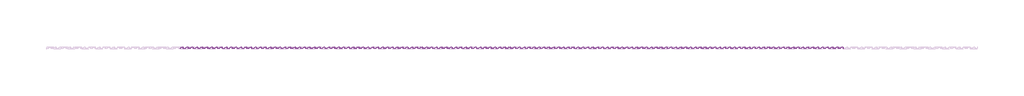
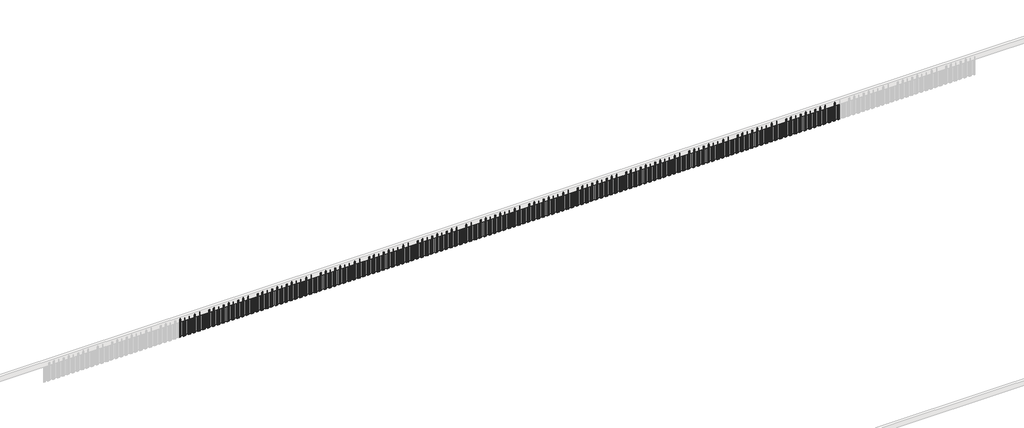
# One storey, part 5 of 6: 136 proxies.
"""IFC4 building model written with IfcOpenShell, lengths in millimetres."""

from ifc_helpers import new_model, si_unit, origin, place, context, project, spatial, transform, mapped, element, save
from components import generic_models_7553901d

model = new_model("IFC4")

# Units and contexts
model_context = context("Model", 3, world=origin())
ifc_project = project(units=[si_unit("LENGTHUNIT", "METRE", prefix="MILLI")], contexts=[model_context])

# Site, building, storey
site = spatial("IfcSite", under=ifc_project)
building = spatial("IfcBuilding", under=site)
storey = spatial("IfcBuildingStorey", under=building, Name="矢板", Elevation=0.0)

# Proxies
placement = place(None, origin())
generic_models_shape = generic_models_7553901d(model_context)
element("IfcBuildingElementProxy", 1, Name="鋼矢板10H型 : 鋼矢板10H型", ObjectType="鋼矢板10H型 : 鋼矢板10H型", at=placement, inside=storey, context=model_context, shape_type="MappedRepresentation", body=[
    mapped(generic_models_shape, transform((61897.5, 28702.0, 7600.0), x_axis=(1.0, 0.0, 0.0), y_axis=(0.0, 1.0, 0.0), z_axis=(0.0, 0.0, 1.0))),
])
element("IfcBuildingElementProxy", 2, Name="鋼矢板10H型 : 鋼矢板10H型", ObjectType="鋼矢板10H型 : 鋼矢板10H型", at=placement, inside=storey, context=model_context, shape_type="MappedRepresentation", body=[
    mapped(generic_models_shape, transform((60997.5, 28702.0, 7600.0), x_axis=(1.0, 0.0, 0.0), y_axis=(0.0, 1.0, 0.0), z_axis=(0.0, 0.0, 1.0))),
])
element("IfcBuildingElementProxy", 3, Name="鋼矢板10H型 : 鋼矢板10H型", ObjectType="鋼矢板10H型 : 鋼矢板10H型", at=placement, inside=storey, context=model_context, shape_type="MappedRepresentation", body=[
    mapped(generic_models_shape, transform((60097.5, 28702.0, 7600.0), x_axis=(1.0, 0.0, 0.0), y_axis=(0.0, 1.0, 0.0), z_axis=(0.0, 0.0, 1.0))),
])
element("IfcBuildingElementProxy", 4, Name="鋼矢板10H型 : 鋼矢板10H型", ObjectType="鋼矢板10H型 : 鋼矢板10H型", at=placement, inside=storey, context=model_context, shape_type="MappedRepresentation", body=[
    mapped(generic_models_shape, transform((59197.5, 28702.0, 7600.0), x_axis=(1.0, 0.0, 0.0), y_axis=(0.0, 1.0, 0.0), z_axis=(0.0, 0.0, 1.0))),
])
element("IfcBuildingElementProxy", 5, Name="鋼矢板10H型 : 鋼矢板10H型", ObjectType="鋼矢板10H型 : 鋼矢板10H型", at=placement, inside=storey, context=model_context, shape_type="MappedRepresentation", body=[
    mapped(generic_models_shape, transform((58297.5, 28702.0, 7600.0), x_axis=(1.0, 0.0, 0.0), y_axis=(0.0, 1.0, 0.0), z_axis=(0.0, 0.0, 1.0))),
])
element("IfcBuildingElementProxy", 6, Name="鋼矢板10H型 : 鋼矢板10H型", ObjectType="鋼矢板10H型 : 鋼矢板10H型", at=placement, inside=storey, context=model_context, shape_type="MappedRepresentation", body=[
    mapped(generic_models_shape, transform((57397.5, 28702.0, 7600.0), x_axis=(1.0, 0.0, 0.0), y_axis=(0.0, 1.0, 0.0), z_axis=(0.0, 0.0, 1.0))),
])
element("IfcBuildingElementProxy", 7, Name="鋼矢板10H型 : 鋼矢板10H型", ObjectType="鋼矢板10H型 : 鋼矢板10H型", at=placement, inside=storey, context=model_context, shape_type="MappedRepresentation", body=[
    mapped(generic_models_shape, transform((56497.5, 28702.0, 7600.0), x_axis=(1.0, 0.0, 0.0), y_axis=(0.0, 1.0, 0.0), z_axis=(0.0, 0.0, 1.0))),
])
element("IfcBuildingElementProxy", 8, Name="鋼矢板10H型 : 鋼矢板10H型", ObjectType="鋼矢板10H型 : 鋼矢板10H型", at=placement, inside=storey, context=model_context, shape_type="MappedRepresentation", body=[
    mapped(generic_models_shape, transform((55597.5, 28702.0, 7600.0), x_axis=(1.0, 0.0, 0.0), y_axis=(0.0, 1.0, 0.0), z_axis=(0.0, 0.0, 1.0))),
])
element("IfcBuildingElementProxy", 9, Name="鋼矢板10H型 : 鋼矢板10H型", ObjectType="鋼矢板10H型 : 鋼矢板10H型", at=placement, inside=storey, context=model_context, shape_type="MappedRepresentation", body=[
    mapped(generic_models_shape, transform((54697.5, 28702.0, 7600.0), x_axis=(1.0, 0.0, 0.0), y_axis=(0.0, 1.0, 0.0), z_axis=(0.0, 0.0, 1.0))),
])
element("IfcBuildingElementProxy", 10, Name="鋼矢板10H型 : 鋼矢板10H型", ObjectType="鋼矢板10H型 : 鋼矢板10H型", at=placement, inside=storey, context=model_context, shape_type="MappedRepresentation", body=[
    mapped(generic_models_shape, transform((53797.5, 28702.0, 7600.0), x_axis=(1.0, 0.0, 0.0), y_axis=(0.0, 1.0, 0.0), z_axis=(0.0, 0.0, 1.0))),
])
element("IfcBuildingElementProxy", 11, Name="鋼矢板10H型 : 鋼矢板10H型", ObjectType="鋼矢板10H型 : 鋼矢板10H型", at=placement, inside=storey, context=model_context, shape_type="MappedRepresentation", body=[
    mapped(generic_models_shape, transform((52897.5, 28702.0, 7600.0), x_axis=(1.0, 0.0, 0.0), y_axis=(0.0, 1.0, 0.0), z_axis=(0.0, 0.0, 1.0))),
])
element("IfcBuildingElementProxy", 12, Name="鋼矢板10H型 : 鋼矢板10H型", ObjectType="鋼矢板10H型 : 鋼矢板10H型", at=placement, inside=storey, context=model_context, shape_type="MappedRepresentation", body=[
    mapped(generic_models_shape, transform((51997.5, 28702.0, 7600.0), x_axis=(1.0, 0.0, 0.0), y_axis=(0.0, 1.0, 0.0), z_axis=(0.0, 0.0, 1.0))),
])
element("IfcBuildingElementProxy", 13, Name="鋼矢板10H型 : 鋼矢板10H型", ObjectType="鋼矢板10H型 : 鋼矢板10H型", at=placement, inside=storey, context=model_context, shape_type="MappedRepresentation", body=[
    mapped(generic_models_shape, transform((51097.5, 28702.0, 7600.0), x_axis=(1.0, 0.0, 0.0), y_axis=(0.0, 1.0, 0.0), z_axis=(0.0, 0.0, 1.0))),
])
element("IfcBuildingElementProxy", 14, Name="鋼矢板10H型 : 鋼矢板10H型", ObjectType="鋼矢板10H型 : 鋼矢板10H型", at=placement, inside=storey, context=model_context, shape_type="MappedRepresentation", body=[
    mapped(generic_models_shape, transform((50197.5, 28702.0, 7600.0), x_axis=(1.0, 0.0, 0.0), y_axis=(0.0, 1.0, 0.0), z_axis=(0.0, 0.0, 1.0))),
])
element("IfcBuildingElementProxy", 15, Name="鋼矢板10H型 : 鋼矢板10H型", ObjectType="鋼矢板10H型 : 鋼矢板10H型", at=placement, inside=storey, context=model_context, shape_type="MappedRepresentation", body=[
    mapped(generic_models_shape, transform((49297.5, 28702.0, 7600.0), x_axis=(1.0, 0.0, 0.0), y_axis=(0.0, 1.0, 0.0), z_axis=(0.0, 0.0, 1.0))),
])
element("IfcBuildingElementProxy", 16, Name="鋼矢板10H型 : 鋼矢板10H型", ObjectType="鋼矢板10H型 : 鋼矢板10H型", at=placement, inside=storey, context=model_context, shape_type="MappedRepresentation", body=[
    mapped(generic_models_shape, transform((48397.5, 28702.0, 7600.0), x_axis=(1.0, 0.0, 0.0), y_axis=(0.0, 1.0, 0.0), z_axis=(0.0, 0.0, 1.0))),
])
element("IfcBuildingElementProxy", 17, Name="鋼矢板10H型 : 鋼矢板10H型", ObjectType="鋼矢板10H型 : 鋼矢板10H型", at=placement, inside=storey, context=model_context, shape_type="MappedRepresentation", body=[
    mapped(generic_models_shape, transform((47497.5, 28702.0, 7600.0), x_axis=(1.0, 0.0, 0.0), y_axis=(0.0, 1.0, 0.0), z_axis=(0.0, 0.0, 1.0))),
])
element("IfcBuildingElementProxy", 18, Name="鋼矢板10H型 : 鋼矢板10H型", ObjectType="鋼矢板10H型 : 鋼矢板10H型", at=placement, inside=storey, context=model_context, shape_type="MappedRepresentation", body=[
    mapped(generic_models_shape, transform((46597.5, 28702.0, 7600.0), x_axis=(1.0, 0.0, 0.0), y_axis=(0.0, 1.0, 0.0), z_axis=(0.0, 0.0, 1.0))),
])
element("IfcBuildingElementProxy", 19, Name="鋼矢板10H型 : 鋼矢板10H型", ObjectType="鋼矢板10H型 : 鋼矢板10H型", at=placement, inside=storey, context=model_context, shape_type="MappedRepresentation", body=[
    mapped(generic_models_shape, transform((45697.5, 28702.0, 7600.0), x_axis=(1.0, 0.0, 0.0), y_axis=(0.0, 1.0, 0.0), z_axis=(0.0, 0.0, 1.0))),
])
element("IfcBuildingElementProxy", 20, Name="鋼矢板10H型 : 鋼矢板10H型", ObjectType="鋼矢板10H型 : 鋼矢板10H型", at=placement, inside=storey, context=model_context, shape_type="MappedRepresentation", body=[
    mapped(generic_models_shape, transform((44797.5, 28702.0, 7600.0), x_axis=(1.0, 0.0, 0.0), y_axis=(0.0, 1.0, 0.0), z_axis=(0.0, 0.0, 1.0))),
])
element("IfcBuildingElementProxy", 21, Name="鋼矢板10H型 : 鋼矢板10H型", ObjectType="鋼矢板10H型 : 鋼矢板10H型", at=placement, inside=storey, context=model_context, shape_type="MappedRepresentation", body=[
    mapped(generic_models_shape, transform((43897.5, 28702.0, 7600.0), x_axis=(1.0, 0.0, 0.0), y_axis=(0.0, 1.0, 0.0), z_axis=(0.0, 0.0, 1.0))),
])
element("IfcBuildingElementProxy", 22, Name="鋼矢板10H型 : 鋼矢板10H型", ObjectType="鋼矢板10H型 : 鋼矢板10H型", at=placement, inside=storey, context=model_context, shape_type="MappedRepresentation", body=[
    mapped(generic_models_shape, transform((42997.5, 28702.0, 7600.0), x_axis=(1.0, 0.0, 0.0), y_axis=(0.0, 1.0, 0.0), z_axis=(0.0, 0.0, 1.0))),
])
element("IfcBuildingElementProxy", 23, Name="鋼矢板10H型 : 鋼矢板10H型", ObjectType="鋼矢板10H型 : 鋼矢板10H型", at=placement, inside=storey, context=model_context, shape_type="MappedRepresentation", body=[
    mapped(generic_models_shape, transform((42097.5, 28702.0, 7600.0), x_axis=(1.0, 0.0, 0.0), y_axis=(0.0, 1.0, 0.0), z_axis=(0.0, 0.0, 1.0))),
])
element("IfcBuildingElementProxy", 24, Name="鋼矢板10H型 : 鋼矢板10H型", ObjectType="鋼矢板10H型 : 鋼矢板10H型", at=placement, inside=storey, context=model_context, shape_type="MappedRepresentation", body=[
    mapped(generic_models_shape, transform((41197.5, 28702.0, 7600.0), x_axis=(1.0, 0.0, 0.0), y_axis=(0.0, 1.0, 0.0), z_axis=(0.0, 0.0, 1.0))),
])
element("IfcBuildingElementProxy", 25, Name="鋼矢板10H型 : 鋼矢板10H型", ObjectType="鋼矢板10H型 : 鋼矢板10H型", at=placement, inside=storey, context=model_context, shape_type="MappedRepresentation", body=[
    mapped(generic_models_shape, transform((40297.5, 28702.0, 7600.0), x_axis=(1.0, 0.0, 0.0), y_axis=(0.0, 1.0, 0.0), z_axis=(0.0, 0.0, 1.0))),
])
element("IfcBuildingElementProxy", 26, Name="鋼矢板10H型 : 鋼矢板10H型", ObjectType="鋼矢板10H型 : 鋼矢板10H型", at=placement, inside=storey, context=model_context, shape_type="MappedRepresentation", body=[
    mapped(generic_models_shape, transform((39397.5, 28702.0, 7600.0), x_axis=(1.0, 0.0, 0.0), y_axis=(0.0, 1.0, 0.0), z_axis=(0.0, 0.0, 1.0))),
])
element("IfcBuildingElementProxy", 27, Name="鋼矢板10H型 : 鋼矢板10H型", ObjectType="鋼矢板10H型 : 鋼矢板10H型", at=placement, inside=storey, context=model_context, shape_type="MappedRepresentation", body=[
    mapped(generic_models_shape, transform((38497.5, 28702.0, 7600.0), x_axis=(1.0, 0.0, 0.0), y_axis=(0.0, 1.0, 0.0), z_axis=(0.0, 0.0, 1.0))),
])
element("IfcBuildingElementProxy", 28, Name="鋼矢板10H型 : 鋼矢板10H型", ObjectType="鋼矢板10H型 : 鋼矢板10H型", at=placement, inside=storey, context=model_context, shape_type="MappedRepresentation", body=[
    mapped(generic_models_shape, transform((37597.5, 28702.0, 7600.0), x_axis=(1.0, 0.0, 0.0), y_axis=(0.0, 1.0, 0.0), z_axis=(0.0, 0.0, 1.0))),
])
element("IfcBuildingElementProxy", 29, Name="鋼矢板10H型 : 鋼矢板10H型", ObjectType="鋼矢板10H型 : 鋼矢板10H型", at=placement, inside=storey, context=model_context, shape_type="MappedRepresentation", body=[
    mapped(generic_models_shape, transform((36697.5, 28702.0, 7600.0), x_axis=(1.0, 0.0, 0.0), y_axis=(0.0, 1.0, 0.0), z_axis=(0.0, 0.0, 1.0))),
])
element("IfcBuildingElementProxy", 30, Name="鋼矢板10H型 : 鋼矢板10H型", ObjectType="鋼矢板10H型 : 鋼矢板10H型", at=placement, inside=storey, context=model_context, shape_type="MappedRepresentation", body=[
    mapped(generic_models_shape, transform((35797.5, 28702.0, 7600.0), x_axis=(1.0, 0.0, 0.0), y_axis=(0.0, 1.0, 0.0), z_axis=(0.0, 0.0, 1.0))),
])
element("IfcBuildingElementProxy", 31, Name="鋼矢板10H型 : 鋼矢板10H型", ObjectType="鋼矢板10H型 : 鋼矢板10H型", at=placement, inside=storey, context=model_context, shape_type="MappedRepresentation", body=[
    mapped(generic_models_shape, transform((34897.5, 28702.0, 7600.0), x_axis=(1.0, 0.0, 0.0), y_axis=(0.0, 1.0, 0.0), z_axis=(0.0, 0.0, 1.0))),
])
element("IfcBuildingElementProxy", 32, Name="鋼矢板10H型 : 鋼矢板10H型", ObjectType="鋼矢板10H型 : 鋼矢板10H型", at=placement, inside=storey, context=model_context, shape_type="MappedRepresentation", body=[
    mapped(generic_models_shape, transform((33997.5, 28702.0, 7600.0), x_axis=(1.0, 0.0, 0.0), y_axis=(0.0, 1.0, 0.0), z_axis=(0.0, 0.0, 1.0))),
])
element("IfcBuildingElementProxy", 33, Name="鋼矢板10H型 : 鋼矢板10H型", ObjectType="鋼矢板10H型 : 鋼矢板10H型", at=placement, inside=storey, context=model_context, shape_type="MappedRepresentation", body=[
    mapped(generic_models_shape, transform((33097.5, 28702.0, 7600.0), x_axis=(1.0, 0.0, 0.0), y_axis=(0.0, 1.0, 0.0), z_axis=(0.0, 0.0, 1.0))),
])
element("IfcBuildingElementProxy", 34, Name="鋼矢板10H型 : 鋼矢板10H型", ObjectType="鋼矢板10H型 : 鋼矢板10H型", at=placement, inside=storey, context=model_context, shape_type="MappedRepresentation", body=[
    mapped(generic_models_shape, transform((32197.5, 28702.0, 7600.0), x_axis=(1.0, 0.0, 0.0), y_axis=(0.0, 1.0, 0.0), z_axis=(0.0, 0.0, 1.0))),
])
element("IfcBuildingElementProxy", 35, Name="鋼矢板10H型 : 鋼矢板10H型", ObjectType="鋼矢板10H型 : 鋼矢板10H型", at=placement, inside=storey, context=model_context, shape_type="MappedRepresentation", body=[
    mapped(generic_models_shape, transform((31297.5, 28702.0, 7600.0), x_axis=(1.0, 0.0, 0.0), y_axis=(0.0, 1.0, 0.0), z_axis=(0.0, 0.0, 1.0))),
])
element("IfcBuildingElementProxy", 36, Name="鋼矢板10H型 : 鋼矢板10H型", ObjectType="鋼矢板10H型 : 鋼矢板10H型", at=placement, inside=storey, context=model_context, shape_type="MappedRepresentation", body=[
    mapped(generic_models_shape, transform((30397.5, 28702.0, 7600.0), x_axis=(1.0, 0.0, 0.0), y_axis=(0.0, 1.0, 0.0), z_axis=(0.0, 0.0, 1.0))),
])
element("IfcBuildingElementProxy", 37, Name="鋼矢板10H型 : 鋼矢板10H型", ObjectType="鋼矢板10H型 : 鋼矢板10H型", at=placement, inside=storey, context=model_context, shape_type="MappedRepresentation", body=[
    mapped(generic_models_shape, transform((29497.5, 28702.0, 7600.0), x_axis=(1.0, 0.0, 0.0), y_axis=(0.0, 1.0, 0.0), z_axis=(0.0, 0.0, 1.0))),
])
element("IfcBuildingElementProxy", 38, Name="鋼矢板10H型 : 鋼矢板10H型", ObjectType="鋼矢板10H型 : 鋼矢板10H型", at=placement, inside=storey, context=model_context, shape_type="MappedRepresentation", body=[
    mapped(generic_models_shape, transform((28597.5, 28702.0, 7600.0), x_axis=(1.0, 0.0, 0.0), y_axis=(0.0, 1.0, 0.0), z_axis=(0.0, 0.0, 1.0))),
])
element("IfcBuildingElementProxy", 39, Name="鋼矢板10H型 : 鋼矢板10H型", ObjectType="鋼矢板10H型 : 鋼矢板10H型", at=placement, inside=storey, context=model_context, shape_type="MappedRepresentation", body=[
    mapped(generic_models_shape, transform((27697.5, 28702.0, 7600.0), x_axis=(1.0, 0.0, 0.0), y_axis=(0.0, 1.0, 0.0), z_axis=(0.0, 0.0, 1.0))),
])
element("IfcBuildingElementProxy", 40, Name="鋼矢板10H型 : 鋼矢板10H型", ObjectType="鋼矢板10H型 : 鋼矢板10H型", at=placement, inside=storey, context=model_context, shape_type="MappedRepresentation", body=[
    mapped(generic_models_shape, transform((26797.5, 28702.0, 7600.0), x_axis=(1.0, 0.0, 0.0), y_axis=(0.0, 1.0, 0.0), z_axis=(0.0, 0.0, 1.0))),
])
element("IfcBuildingElementProxy", 41, Name="鋼矢板10H型 : 鋼矢板10H型", ObjectType="鋼矢板10H型 : 鋼矢板10H型", at=placement, inside=storey, context=model_context, shape_type="MappedRepresentation", body=[
    mapped(generic_models_shape, transform((25897.5, 28702.0, 7600.0), x_axis=(1.0, 0.0, 0.0), y_axis=(0.0, 1.0, 0.0), z_axis=(0.0, 0.0, 1.0))),
])
element("IfcBuildingElementProxy", 42, Name="鋼矢板10H型 : 鋼矢板10H型", ObjectType="鋼矢板10H型 : 鋼矢板10H型", at=placement, inside=storey, context=model_context, shape_type="MappedRepresentation", body=[
    mapped(generic_models_shape, transform((24997.5, 28702.0, 7600.0), x_axis=(1.0, 0.0, 0.0), y_axis=(0.0, 1.0, 0.0), z_axis=(0.0, 0.0, 1.0))),
])
element("IfcBuildingElementProxy", 43, Name="鋼矢板10H型 : 鋼矢板10H型", ObjectType="鋼矢板10H型 : 鋼矢板10H型", at=placement, inside=storey, context=model_context, shape_type="MappedRepresentation", body=[
    mapped(generic_models_shape, transform((24097.5, 28702.0, 7600.0), x_axis=(1.0, 0.0, 0.0), y_axis=(0.0, 1.0, 0.0), z_axis=(0.0, 0.0, 1.0))),
])
element("IfcBuildingElementProxy", 44, Name="鋼矢板10H型 : 鋼矢板10H型", ObjectType="鋼矢板10H型 : 鋼矢板10H型", at=placement, inside=storey, context=model_context, shape_type="MappedRepresentation", body=[
    mapped(generic_models_shape, transform((23197.5, 28702.0, 7600.0), x_axis=(1.0, 0.0, 0.0), y_axis=(0.0, 1.0, 0.0), z_axis=(0.0, 0.0, 1.0))),
])
element("IfcBuildingElementProxy", 45, Name="鋼矢板10H型 : 鋼矢板10H型", ObjectType="鋼矢板10H型 : 鋼矢板10H型", at=placement, inside=storey, context=model_context, shape_type="MappedRepresentation", body=[
    mapped(generic_models_shape, transform((22297.5, 28702.0, 7600.0), x_axis=(1.0, 0.0, 0.0), y_axis=(0.0, 1.0, 0.0), z_axis=(0.0, 0.0, 1.0))),
])
element("IfcBuildingElementProxy", 46, Name="鋼矢板10H型 : 鋼矢板10H型", ObjectType="鋼矢板10H型 : 鋼矢板10H型", at=placement, inside=storey, context=model_context, shape_type="MappedRepresentation", body=[
    mapped(generic_models_shape, transform((21397.5, 28702.0, 7600.0), x_axis=(1.0, 0.0, 0.0), y_axis=(0.0, 1.0, 0.0), z_axis=(0.0, 0.0, 1.0))),
])
element("IfcBuildingElementProxy", 47, Name="鋼矢板10H型 : 鋼矢板10H型", ObjectType="鋼矢板10H型 : 鋼矢板10H型", at=placement, inside=storey, context=model_context, shape_type="MappedRepresentation", body=[
    mapped(generic_models_shape, transform((20497.5, 28702.0, 7600.0), x_axis=(1.0, 0.0, 0.0), y_axis=(0.0, 1.0, 0.0), z_axis=(0.0, 0.0, 1.0))),
])
element("IfcBuildingElementProxy", 48, Name="鋼矢板10H型 : 鋼矢板10H型", ObjectType="鋼矢板10H型 : 鋼矢板10H型", at=placement, inside=storey, context=model_context, shape_type="MappedRepresentation", body=[
    mapped(generic_models_shape, transform((19597.5, 28702.0, 7600.0), x_axis=(1.0, 0.0, 0.0), y_axis=(0.0, 1.0, 0.0), z_axis=(0.0, 0.0, 1.0))),
])
element("IfcBuildingElementProxy", 49, Name="鋼矢板10H型 : 鋼矢板10H型", ObjectType="鋼矢板10H型 : 鋼矢板10H型", at=placement, inside=storey, context=model_context, shape_type="MappedRepresentation", body=[
    mapped(generic_models_shape, transform((18697.5, 28702.0, 7600.0), x_axis=(1.0, 0.0, 0.0), y_axis=(0.0, 1.0, 0.0), z_axis=(0.0, 0.0, 1.0))),
])
element("IfcBuildingElementProxy", 50, Name="鋼矢板10H型 : 鋼矢板10H型", ObjectType="鋼矢板10H型 : 鋼矢板10H型", at=placement, inside=storey, context=model_context, shape_type="MappedRepresentation", body=[
    mapped(generic_models_shape, transform((17797.5, 28702.0, 7600.0), x_axis=(1.0, 0.0, 0.0), y_axis=(0.0, 1.0, 0.0), z_axis=(0.0, 0.0, 1.0))),
])
element("IfcBuildingElementProxy", 51, Name="鋼矢板10H型 : 鋼矢板10H型", ObjectType="鋼矢板10H型 : 鋼矢板10H型", at=placement, inside=storey, context=model_context, shape_type="MappedRepresentation", body=[
    mapped(generic_models_shape, transform((16897.5, 28702.0, 7600.0), x_axis=(1.0, 0.0, 0.0), y_axis=(0.0, 1.0, 0.0), z_axis=(0.0, 0.0, 1.0))),
])
element("IfcBuildingElementProxy", 52, Name="鋼矢板10H型 : 鋼矢板10H型", ObjectType="鋼矢板10H型 : 鋼矢板10H型", at=placement, inside=storey, context=model_context, shape_type="MappedRepresentation", body=[
    mapped(generic_models_shape, transform((15997.5, 28702.0, 7600.0), x_axis=(1.0, 0.0, 0.0), y_axis=(0.0, 1.0, 0.0), z_axis=(0.0, 0.0, 1.0))),
])
element("IfcBuildingElementProxy", 53, Name="鋼矢板10H型 : 鋼矢板10H型", ObjectType="鋼矢板10H型 : 鋼矢板10H型", at=placement, inside=storey, context=model_context, shape_type="MappedRepresentation", body=[
    mapped(generic_models_shape, transform((15097.5, 28702.0, 7600.0), x_axis=(1.0, 0.0, 0.0), y_axis=(0.0, 1.0, 0.0), z_axis=(0.0, 0.0, 1.0))),
])
element("IfcBuildingElementProxy", 54, Name="鋼矢板10H型 : 鋼矢板10H型", ObjectType="鋼矢板10H型 : 鋼矢板10H型", at=placement, inside=storey, context=model_context, shape_type="MappedRepresentation", body=[
    mapped(generic_models_shape, transform((14197.5, 28702.0, 7600.0), x_axis=(1.0, 0.0, 0.0), y_axis=(0.0, 1.0, 0.0), z_axis=(0.0, 0.0, 1.0))),
])
element("IfcBuildingElementProxy", 55, Name="鋼矢板10H型 : 鋼矢板10H型", ObjectType="鋼矢板10H型 : 鋼矢板10H型", at=placement, inside=storey, context=model_context, shape_type="MappedRepresentation", body=[
    mapped(generic_models_shape, transform((13297.5, 28702.0, 7600.0), x_axis=(1.0, 0.0, 0.0), y_axis=(0.0, 1.0, 0.0), z_axis=(0.0, 0.0, 1.0))),
])
element("IfcBuildingElementProxy", 56, Name="鋼矢板10H型 : 鋼矢板10H型", ObjectType="鋼矢板10H型 : 鋼矢板10H型", at=placement, inside=storey, context=model_context, shape_type="MappedRepresentation", body=[
    mapped(generic_models_shape, transform((12397.5, 28702.0, 7600.0), x_axis=(1.0, 0.0, 0.0), y_axis=(0.0, 1.0, 0.0), z_axis=(0.0, 0.0, 1.0))),
])
element("IfcBuildingElementProxy", 57, Name="鋼矢板10H型 : 鋼矢板10H型", ObjectType="鋼矢板10H型 : 鋼矢板10H型", at=placement, inside=storey, context=model_context, shape_type="MappedRepresentation", body=[
    mapped(generic_models_shape, transform((11497.5, 28702.0, 7600.0), x_axis=(1.0, 0.0, 0.0), y_axis=(0.0, 1.0, 0.0), z_axis=(0.0, 0.0, 1.0))),
])
element("IfcBuildingElementProxy", 58, Name="鋼矢板10H型 : 鋼矢板10H型", ObjectType="鋼矢板10H型 : 鋼矢板10H型", at=placement, inside=storey, context=model_context, shape_type="MappedRepresentation", body=[
    mapped(generic_models_shape, transform((10597.5, 28702.0, 7600.0), x_axis=(1.0, 0.0, 0.0), y_axis=(0.0, 1.0, 0.0), z_axis=(0.0, 0.0, 1.0))),
])
element("IfcBuildingElementProxy", 59, Name="鋼矢板10H型 : 鋼矢板10H型", ObjectType="鋼矢板10H型 : 鋼矢板10H型", at=placement, inside=storey, context=model_context, shape_type="MappedRepresentation", body=[
    mapped(generic_models_shape, transform((9697.5, 28702.0, 7600.0), x_axis=(1.0, 0.0, 0.0), y_axis=(0.0, 1.0, 0.0), z_axis=(0.0, 0.0, 1.0))),
])
element("IfcBuildingElementProxy", 60, Name="鋼矢板10H型 : 鋼矢板10H型", ObjectType="鋼矢板10H型 : 鋼矢板10H型", at=placement, inside=storey, context=model_context, shape_type="MappedRepresentation", body=[
    mapped(generic_models_shape, transform((8797.5, 28702.0, 7600.0), x_axis=(1.0, 0.0, 0.0), y_axis=(0.0, 1.0, 0.0), z_axis=(0.0, 0.0, 1.0))),
])
element("IfcBuildingElementProxy", 61, Name="鋼矢板10H型 : 鋼矢板10H型", ObjectType="鋼矢板10H型 : 鋼矢板10H型", at=placement, inside=storey, context=model_context, shape_type="MappedRepresentation", body=[
    mapped(generic_models_shape, transform((7897.5, 28702.0, 7600.0), x_axis=(1.0, 0.0, 0.0), y_axis=(0.0, 1.0, 0.0), z_axis=(0.0, 0.0, 1.0))),
])
element("IfcBuildingElementProxy", 62, Name="鋼矢板10H型 : 鋼矢板10H型", ObjectType="鋼矢板10H型 : 鋼矢板10H型", at=placement, inside=storey, context=model_context, shape_type="MappedRepresentation", body=[
    mapped(generic_models_shape, transform((6997.5, 28702.0, 7600.0), x_axis=(1.0, 0.0, 0.0), y_axis=(0.0, 1.0, 0.0), z_axis=(0.0, 0.0, 1.0))),
])
element("IfcBuildingElementProxy", 63, Name="鋼矢板10H型 : 鋼矢板10H型", ObjectType="鋼矢板10H型 : 鋼矢板10H型", at=placement, inside=storey, context=model_context, shape_type="MappedRepresentation", body=[
    mapped(generic_models_shape, transform((6097.5, 28702.0, 7600.0), x_axis=(1.0, 0.0, 0.0), y_axis=(0.0, 1.0, 0.0), z_axis=(0.0, 0.0, 1.0))),
])
element("IfcBuildingElementProxy", 64, Name="鋼矢板10H型 : 鋼矢板10H型", ObjectType="鋼矢板10H型 : 鋼矢板10H型", at=placement, inside=storey, context=model_context, shape_type="MappedRepresentation", body=[
    mapped(generic_models_shape, transform((5197.5, 28702.0, 7600.0), x_axis=(1.0, 0.0, 0.0), y_axis=(0.0, 1.0, 0.0), z_axis=(0.0, 0.0, 1.0))),
])
element("IfcBuildingElementProxy", 65, Name="鋼矢板10H型 : 鋼矢板10H型", ObjectType="鋼矢板10H型 : 鋼矢板10H型", at=placement, inside=storey, context=model_context, shape_type="MappedRepresentation", body=[
    mapped(generic_models_shape, transform((4297.5, 28702.0, 7600.0), x_axis=(1.0, 0.0, 0.0), y_axis=(0.0, 1.0, 0.0), z_axis=(0.0, 0.0, 1.0))),
])
element("IfcBuildingElementProxy", 66, Name="鋼矢板10H型 : 鋼矢板10H型", ObjectType="鋼矢板10H型 : 鋼矢板10H型", at=placement, inside=storey, context=model_context, shape_type="MappedRepresentation", body=[
    mapped(generic_models_shape, transform((3397.5, 28702.0, 7600.0), x_axis=(1.0, 0.0, 0.0), y_axis=(0.0, 1.0, 0.0), z_axis=(0.0, 0.0, 1.0))),
])
element("IfcBuildingElementProxy", 67, Name="鋼矢板10H型 : 鋼矢板10H型", ObjectType="鋼矢板10H型 : 鋼矢板10H型", at=placement, inside=storey, context=model_context, shape_type="MappedRepresentation", body=[
    mapped(generic_models_shape, transform((2497.5, 28702.0, 7600.0), x_axis=(1.0, 0.0, 0.0), y_axis=(0.0, 1.0, 0.0), z_axis=(0.0, 0.0, 1.0))),
])
element("IfcBuildingElementProxy", 68, Name="鋼矢板10H型 : 鋼矢板10H型", ObjectType="鋼矢板10H型 : 鋼矢板10H型", at=placement, inside=storey, context=model_context, shape_type="MappedRepresentation", body=[
    mapped(generic_models_shape, transform((1597.5, 28702.0, 7600.0), x_axis=(1.0, 0.0, 0.0), y_axis=(0.0, 1.0, 0.0), z_axis=(0.0, 0.0, 1.0))),
])
element("IfcBuildingElementProxy", 69, Name="鋼矢板10H型 : 鋼矢板10H型", ObjectType="鋼矢板10H型 : 鋼矢板10H型", at=placement, inside=storey, context=model_context, shape_type="MappedRepresentation", body=[
    mapped(generic_models_shape, transform((697.5, 28702.0, 7600.0), x_axis=(1.0, 0.0, 0.0), y_axis=(0.0, 1.0, 0.0), z_axis=(0.0, 0.0, 1.0))),
])
element("IfcBuildingElementProxy", 70, Name="鋼矢板10H型 : 鋼矢板10H型", ObjectType="鋼矢板10H型 : 鋼矢板10H型", at=placement, inside=storey, context=model_context, shape_type="MappedRepresentation", body=[
    mapped(generic_models_shape, transform((-202.5, 28702.0, 7600.0), x_axis=(1.0, 0.0, 0.0), y_axis=(0.0, 1.0, 0.0), z_axis=(0.0, 0.0, 1.0))),
])
element("IfcBuildingElementProxy", 71, Name="鋼矢板10H型 : 鋼矢板10H型", ObjectType="鋼矢板10H型 : 鋼矢板10H型", at=placement, inside=storey, context=model_context, shape_type="MappedRepresentation", body=[
    mapped(generic_models_shape, transform((-1102.5, 28702.0, 7600.0), x_axis=(1.0, 0.0, 0.0), y_axis=(0.0, 1.0, 0.0), z_axis=(0.0, 0.0, 1.0))),
])
element("IfcBuildingElementProxy", 72, Name="鋼矢板10H型 : 鋼矢板10H型", ObjectType="鋼矢板10H型 : 鋼矢板10H型", at=placement, inside=storey, context=model_context, shape_type="MappedRepresentation", body=[
    mapped(generic_models_shape, transform((-2002.5, 28702.0, 7600.0), x_axis=(1.0, 0.0, 0.0), y_axis=(0.0, 1.0, 0.0), z_axis=(0.0, 0.0, 1.0))),
])
element("IfcBuildingElementProxy", 73, Name="鋼矢板10H型 : 鋼矢板10H型", ObjectType="鋼矢板10H型 : 鋼矢板10H型", at=placement, inside=storey, context=model_context, shape_type="MappedRepresentation", body=[
    mapped(generic_models_shape, transform((-2902.5, 28702.0, 7600.0), x_axis=(1.0, 0.0, 0.0), y_axis=(0.0, 1.0, 0.0), z_axis=(0.0, 0.0, 1.0))),
])
element("IfcBuildingElementProxy", 74, Name="鋼矢板10H型 : 鋼矢板10H型", ObjectType="鋼矢板10H型 : 鋼矢板10H型", at=placement, inside=storey, context=model_context, shape_type="MappedRepresentation", body=[
    mapped(generic_models_shape, transform((-3802.5, 28702.0, 7600.0), x_axis=(1.0, 0.0, 0.0), y_axis=(0.0, 1.0, 0.0), z_axis=(0.0, 0.0, 1.0))),
])
element("IfcBuildingElementProxy", 75, Name="鋼矢板10H型 : 鋼矢板10H型", ObjectType="鋼矢板10H型 : 鋼矢板10H型", at=placement, inside=storey, context=model_context, shape_type="MappedRepresentation", body=[
    mapped(generic_models_shape, transform((-4702.5, 28702.0, 7600.0), x_axis=(1.0, 0.0, 0.0), y_axis=(0.0, 1.0, 0.0), z_axis=(0.0, 0.0, 1.0))),
])
element("IfcBuildingElementProxy", 76, Name="鋼矢板10H型 : 鋼矢板10H型", ObjectType="鋼矢板10H型 : 鋼矢板10H型", at=placement, inside=storey, context=model_context, shape_type="MappedRepresentation", body=[
    mapped(generic_models_shape, transform((-5602.5, 28702.0, 7600.0), x_axis=(1.0, 0.0, 0.0), y_axis=(0.0, 1.0, 0.0), z_axis=(0.0, 0.0, 1.0))),
])
element("IfcBuildingElementProxy", 77, Name="鋼矢板10H型 : 鋼矢板10H型", ObjectType="鋼矢板10H型 : 鋼矢板10H型", at=placement, inside=storey, context=model_context, shape_type="MappedRepresentation", body=[
    mapped(generic_models_shape, transform((-6502.5, 28702.0, 7600.0), x_axis=(1.0, 0.0, 0.0), y_axis=(0.0, 1.0, 0.0), z_axis=(0.0, 0.0, 1.0))),
])
element("IfcBuildingElementProxy", 78, Name="鋼矢板10H型 : 鋼矢板10H型", ObjectType="鋼矢板10H型 : 鋼矢板10H型", at=placement, inside=storey, context=model_context, shape_type="MappedRepresentation", body=[
    mapped(generic_models_shape, transform((-7402.5, 28702.0, 7600.0), x_axis=(1.0, 0.0, 0.0), y_axis=(0.0, 1.0, 0.0), z_axis=(0.0, 0.0, 1.0))),
])
element("IfcBuildingElementProxy", 79, Name="鋼矢板10H型 : 鋼矢板10H型", ObjectType="鋼矢板10H型 : 鋼矢板10H型", at=placement, inside=storey, context=model_context, shape_type="MappedRepresentation", body=[
    mapped(generic_models_shape, transform((-8302.5, 28702.0, 7600.0), x_axis=(1.0, 0.0, 0.0), y_axis=(0.0, 1.0, 0.0), z_axis=(0.0, 0.0, 1.0))),
])
element("IfcBuildingElementProxy", 80, Name="鋼矢板10H型 : 鋼矢板10H型", ObjectType="鋼矢板10H型 : 鋼矢板10H型", at=placement, inside=storey, context=model_context, shape_type="MappedRepresentation", body=[
    mapped(generic_models_shape, transform((-9202.5, 28702.0, 7600.0), x_axis=(1.0, 0.0, 0.0), y_axis=(0.0, 1.0, 0.0), z_axis=(0.0, 0.0, 1.0))),
])
element("IfcBuildingElementProxy", 81, Name="鋼矢板10H型 : 鋼矢板10H型", ObjectType="鋼矢板10H型 : 鋼矢板10H型", at=placement, inside=storey, context=model_context, shape_type="MappedRepresentation", body=[
    mapped(generic_models_shape, transform((-10102.5, 28702.0, 7600.0), x_axis=(1.0, 0.0, 0.0), y_axis=(0.0, 1.0, 0.0), z_axis=(0.0, 0.0, 1.0))),
])
element("IfcBuildingElementProxy", 82, Name="鋼矢板10H型 : 鋼矢板10H型", ObjectType="鋼矢板10H型 : 鋼矢板10H型", at=placement, inside=storey, context=model_context, shape_type="MappedRepresentation", body=[
    mapped(generic_models_shape, transform((-11002.5, 28702.0, 7600.0), x_axis=(1.0, 0.0, 0.0), y_axis=(0.0, 1.0, 0.0), z_axis=(0.0, 0.0, 1.0))),
])
element("IfcBuildingElementProxy", 83, Name="鋼矢板10H型 : 鋼矢板10H型", ObjectType="鋼矢板10H型 : 鋼矢板10H型", at=placement, inside=storey, context=model_context, shape_type="MappedRepresentation", body=[
    mapped(generic_models_shape, transform((-11902.5, 28702.0, 7600.0), x_axis=(1.0, 0.0, 0.0), y_axis=(0.0, 1.0, 0.0), z_axis=(0.0, 0.0, 1.0))),
])
element("IfcBuildingElementProxy", 84, Name="鋼矢板10H型 : 鋼矢板10H型", ObjectType="鋼矢板10H型 : 鋼矢板10H型", at=placement, inside=storey, context=model_context, shape_type="MappedRepresentation", body=[
    mapped(generic_models_shape, transform((-12802.5, 28702.0, 7600.0), x_axis=(1.0, 0.0, 0.0), y_axis=(0.0, 1.0, 0.0), z_axis=(0.0, 0.0, 1.0))),
])
element("IfcBuildingElementProxy", 85, Name="鋼矢板10H型 : 鋼矢板10H型", ObjectType="鋼矢板10H型 : 鋼矢板10H型", at=placement, inside=storey, context=model_context, shape_type="MappedRepresentation", body=[
    mapped(generic_models_shape, transform((-13702.5, 28702.0, 7600.0), x_axis=(1.0, 0.0, 0.0), y_axis=(0.0, 1.0, 0.0), z_axis=(0.0, 0.0, 1.0))),
])
element("IfcBuildingElementProxy", 86, Name="鋼矢板10H型 : 鋼矢板10H型", ObjectType="鋼矢板10H型 : 鋼矢板10H型", at=placement, inside=storey, context=model_context, shape_type="MappedRepresentation", body=[
    mapped(generic_models_shape, transform((-14602.5, 28702.0, 7600.0), x_axis=(1.0, 0.0, 0.0), y_axis=(0.0, 1.0, 0.0), z_axis=(0.0, 0.0, 1.0))),
])
element("IfcBuildingElementProxy", 87, Name="鋼矢板10H型 : 鋼矢板10H型", ObjectType="鋼矢板10H型 : 鋼矢板10H型", at=placement, inside=storey, context=model_context, shape_type="MappedRepresentation", body=[
    mapped(generic_models_shape, transform((-15502.5, 28702.0, 7600.0), x_axis=(1.0, 0.0, 0.0), y_axis=(0.0, 1.0, 0.0), z_axis=(0.0, 0.0, 1.0))),
])
element("IfcBuildingElementProxy", 88, Name="鋼矢板10H型 : 鋼矢板10H型", ObjectType="鋼矢板10H型 : 鋼矢板10H型", at=placement, inside=storey, context=model_context, shape_type="MappedRepresentation", body=[
    mapped(generic_models_shape, transform((-16402.5, 28702.0, 7600.0), x_axis=(1.0, 0.0, 0.0), y_axis=(0.0, 1.0, 0.0), z_axis=(0.0, 0.0, 1.0))),
])
element("IfcBuildingElementProxy", 89, Name="鋼矢板10H型 : 鋼矢板10H型", ObjectType="鋼矢板10H型 : 鋼矢板10H型", at=placement, inside=storey, context=model_context, shape_type="MappedRepresentation", body=[
    mapped(generic_models_shape, transform((-17302.5, 28702.0, 7600.0), x_axis=(1.0, 0.0, 0.0), y_axis=(0.0, 1.0, 0.0), z_axis=(0.0, 0.0, 1.0))),
])
element("IfcBuildingElementProxy", 90, Name="鋼矢板10H型 : 鋼矢板10H型", ObjectType="鋼矢板10H型 : 鋼矢板10H型", at=placement, inside=storey, context=model_context, shape_type="MappedRepresentation", body=[
    mapped(generic_models_shape, transform((-18202.5, 28702.0, 7600.0), x_axis=(1.0, 0.0, 0.0), y_axis=(0.0, 1.0, 0.0), z_axis=(0.0, 0.0, 1.0))),
])
element("IfcBuildingElementProxy", 91, Name="鋼矢板10H型 : 鋼矢板10H型", ObjectType="鋼矢板10H型 : 鋼矢板10H型", at=placement, inside=storey, context=model_context, shape_type="MappedRepresentation", body=[
    mapped(generic_models_shape, transform((-19102.5, 28702.0, 7600.0), x_axis=(1.0, 0.0, 0.0), y_axis=(0.0, 1.0, 0.0), z_axis=(0.0, 0.0, 1.0))),
])
element("IfcBuildingElementProxy", 92, Name="鋼矢板10H型 : 鋼矢板10H型", ObjectType="鋼矢板10H型 : 鋼矢板10H型", at=placement, inside=storey, context=model_context, shape_type="MappedRepresentation", body=[
    mapped(generic_models_shape, transform((-20002.5, 28702.0, 7600.0), x_axis=(1.0, 0.0, 0.0), y_axis=(0.0, 1.0, 0.0), z_axis=(0.0, 0.0, 1.0))),
])
element("IfcBuildingElementProxy", 93, Name="鋼矢板10H型 : 鋼矢板10H型", ObjectType="鋼矢板10H型 : 鋼矢板10H型", at=placement, inside=storey, context=model_context, shape_type="MappedRepresentation", body=[
    mapped(generic_models_shape, transform((-20902.5, 28702.0, 7600.0), x_axis=(1.0, 0.0, 0.0), y_axis=(0.0, 1.0, 0.0), z_axis=(0.0, 0.0, 1.0))),
])
element("IfcBuildingElementProxy", 94, Name="鋼矢板10H型 : 鋼矢板10H型", ObjectType="鋼矢板10H型 : 鋼矢板10H型", at=placement, inside=storey, context=model_context, shape_type="MappedRepresentation", body=[
    mapped(generic_models_shape, transform((-21802.5, 28702.0, 7600.0), x_axis=(1.0, 0.0, 0.0), y_axis=(0.0, 1.0, 0.0), z_axis=(0.0, 0.0, 1.0))),
])
element("IfcBuildingElementProxy", 95, Name="鋼矢板10H型 : 鋼矢板10H型", ObjectType="鋼矢板10H型 : 鋼矢板10H型", at=placement, inside=storey, context=model_context, shape_type="MappedRepresentation", body=[
    mapped(generic_models_shape, transform((-22702.5, 28702.0, 7600.0), x_axis=(1.0, 0.0, 0.0), y_axis=(0.0, 1.0, 0.0), z_axis=(0.0, 0.0, 1.0))),
])
element("IfcBuildingElementProxy", 96, Name="鋼矢板10H型 : 鋼矢板10H型", ObjectType="鋼矢板10H型 : 鋼矢板10H型", at=placement, inside=storey, context=model_context, shape_type="MappedRepresentation", body=[
    mapped(generic_models_shape, transform((-23602.5, 28702.0, 7600.0), x_axis=(1.0, 0.0, 0.0), y_axis=(0.0, 1.0, 0.0), z_axis=(0.0, 0.0, 1.0))),
])
element("IfcBuildingElementProxy", 97, Name="鋼矢板10H型 : 鋼矢板10H型", ObjectType="鋼矢板10H型 : 鋼矢板10H型", at=placement, inside=storey, context=model_context, shape_type="MappedRepresentation", body=[
    mapped(generic_models_shape, transform((-24502.5, 28702.0, 7600.0), x_axis=(1.0, 0.0, 0.0), y_axis=(0.0, 1.0, 0.0), z_axis=(0.0, 0.0, 1.0))),
])
element("IfcBuildingElementProxy", 98, Name="鋼矢板10H型 : 鋼矢板10H型", ObjectType="鋼矢板10H型 : 鋼矢板10H型", at=placement, inside=storey, context=model_context, shape_type="MappedRepresentation", body=[
    mapped(generic_models_shape, transform((-25402.5, 28702.0, 7600.0), x_axis=(1.0, 0.0, 0.0), y_axis=(0.0, 1.0, 0.0), z_axis=(0.0, 0.0, 1.0))),
])
element("IfcBuildingElementProxy", 99, Name="鋼矢板10H型 : 鋼矢板10H型", ObjectType="鋼矢板10H型 : 鋼矢板10H型", at=placement, inside=storey, context=model_context, shape_type="MappedRepresentation", body=[
    mapped(generic_models_shape, transform((-26302.5, 28702.0, 7600.0), x_axis=(1.0, 0.0, 0.0), y_axis=(0.0, 1.0, 0.0), z_axis=(0.0, 0.0, 1.0))),
])
element("IfcBuildingElementProxy", 100, Name="鋼矢板10H型 : 鋼矢板10H型", ObjectType="鋼矢板10H型 : 鋼矢板10H型", at=placement, inside=storey, context=model_context, shape_type="MappedRepresentation", body=[
    mapped(generic_models_shape, transform((-27202.5, 28702.0, 7600.0), x_axis=(1.0, 0.0, 0.0), y_axis=(0.0, 1.0, 0.0), z_axis=(0.0, 0.0, 1.0))),
])
element("IfcBuildingElementProxy", 101, Name="鋼矢板10H型 : 鋼矢板10H型", ObjectType="鋼矢板10H型 : 鋼矢板10H型", at=placement, inside=storey, context=model_context, shape_type="MappedRepresentation", body=[
    mapped(generic_models_shape, transform((-28102.5, 28702.0, 7600.0), x_axis=(1.0, 0.0, 0.0), y_axis=(0.0, 1.0, 0.0), z_axis=(0.0, 0.0, 1.0))),
])
element("IfcBuildingElementProxy", 102, Name="鋼矢板10H型 : 鋼矢板10H型", ObjectType="鋼矢板10H型 : 鋼矢板10H型", at=placement, inside=storey, context=model_context, shape_type="MappedRepresentation", body=[
    mapped(generic_models_shape, transform((-29002.5, 28702.0, 7600.0), x_axis=(1.0, 0.0, 0.0), y_axis=(0.0, 1.0, 0.0), z_axis=(0.0, 0.0, 1.0))),
])
element("IfcBuildingElementProxy", 103, Name="鋼矢板10H型 : 鋼矢板10H型", ObjectType="鋼矢板10H型 : 鋼矢板10H型", at=placement, inside=storey, context=model_context, shape_type="MappedRepresentation", body=[
    mapped(generic_models_shape, transform((-29902.5, 28702.0, 7600.0), x_axis=(1.0, 0.0, 0.0), y_axis=(0.0, 1.0, 0.0), z_axis=(0.0, 0.0, 1.0))),
])
element("IfcBuildingElementProxy", 104, Name="鋼矢板10H型 : 鋼矢板10H型", ObjectType="鋼矢板10H型 : 鋼矢板10H型", at=placement, inside=storey, context=model_context, shape_type="MappedRepresentation", body=[
    mapped(generic_models_shape, transform((-30802.5, 28702.0, 7600.0), x_axis=(1.0, 0.0, 0.0), y_axis=(0.0, 1.0, 0.0), z_axis=(0.0, 0.0, 1.0))),
])
element("IfcBuildingElementProxy", 105, Name="鋼矢板10H型 : 鋼矢板10H型", ObjectType="鋼矢板10H型 : 鋼矢板10H型", at=placement, inside=storey, context=model_context, shape_type="MappedRepresentation", body=[
    mapped(generic_models_shape, transform((-31702.5, 28702.0, 7600.0), x_axis=(1.0, 0.0, 0.0), y_axis=(0.0, 1.0, 0.0), z_axis=(0.0, 0.0, 1.0))),
])
element("IfcBuildingElementProxy", 106, Name="鋼矢板10H型 : 鋼矢板10H型", ObjectType="鋼矢板10H型 : 鋼矢板10H型", at=placement, inside=storey, context=model_context, shape_type="MappedRepresentation", body=[
    mapped(generic_models_shape, transform((-32602.5, 28702.0, 7600.0), x_axis=(1.0, 0.0, 0.0), y_axis=(0.0, 1.0, 0.0), z_axis=(0.0, 0.0, 1.0))),
])
element("IfcBuildingElementProxy", 107, Name="鋼矢板10H型 : 鋼矢板10H型", ObjectType="鋼矢板10H型 : 鋼矢板10H型", at=placement, inside=storey, context=model_context, shape_type="MappedRepresentation", body=[
    mapped(generic_models_shape, transform((-33502.5, 28702.0, 7600.0), x_axis=(1.0, 0.0, 0.0), y_axis=(0.0, 1.0, 0.0), z_axis=(0.0, 0.0, 1.0))),
])
element("IfcBuildingElementProxy", 108, Name="鋼矢板10H型 : 鋼矢板10H型", ObjectType="鋼矢板10H型 : 鋼矢板10H型", at=placement, inside=storey, context=model_context, shape_type="MappedRepresentation", body=[
    mapped(generic_models_shape, transform((-34402.5, 28702.0, 7600.0), x_axis=(1.0, 0.0, 0.0), y_axis=(0.0, 1.0, 0.0), z_axis=(0.0, 0.0, 1.0))),
])
element("IfcBuildingElementProxy", 109, Name="鋼矢板10H型 : 鋼矢板10H型", ObjectType="鋼矢板10H型 : 鋼矢板10H型", at=placement, inside=storey, context=model_context, shape_type="MappedRepresentation", body=[
    mapped(generic_models_shape, transform((-35302.5, 28702.0, 7600.0), x_axis=(1.0, 0.0, 0.0), y_axis=(0.0, 1.0, 0.0), z_axis=(0.0, 0.0, 1.0))),
])
element("IfcBuildingElementProxy", 110, Name="鋼矢板10H型 : 鋼矢板10H型", ObjectType="鋼矢板10H型 : 鋼矢板10H型", at=placement, inside=storey, context=model_context, shape_type="MappedRepresentation", body=[
    mapped(generic_models_shape, transform((-36202.5, 28702.0, 7600.0), x_axis=(1.0, 0.0, 0.0), y_axis=(0.0, 1.0, 0.0), z_axis=(0.0, 0.0, 1.0))),
])
element("IfcBuildingElementProxy", 111, Name="鋼矢板10H型 : 鋼矢板10H型", ObjectType="鋼矢板10H型 : 鋼矢板10H型", at=placement, inside=storey, context=model_context, shape_type="MappedRepresentation", body=[
    mapped(generic_models_shape, transform((-37102.5, 28702.0, 7600.0), x_axis=(1.0, 0.0, 0.0), y_axis=(0.0, 1.0, 0.0), z_axis=(0.0, 0.0, 1.0))),
])
element("IfcBuildingElementProxy", 112, Name="鋼矢板10H型 : 鋼矢板10H型", ObjectType="鋼矢板10H型 : 鋼矢板10H型", at=placement, inside=storey, context=model_context, shape_type="MappedRepresentation", body=[
    mapped(generic_models_shape, transform((-38002.5, 28702.0, 7600.0), x_axis=(1.0, 0.0, 0.0), y_axis=(0.0, 1.0, 0.0), z_axis=(0.0, 0.0, 1.0))),
])
element("IfcBuildingElementProxy", 113, Name="鋼矢板10H型 : 鋼矢板10H型", ObjectType="鋼矢板10H型 : 鋼矢板10H型", at=placement, inside=storey, context=model_context, shape_type="MappedRepresentation", body=[
    mapped(generic_models_shape, transform((-38902.5, 28702.0, 7600.0), x_axis=(1.0, 0.0, 0.0), y_axis=(0.0, 1.0, 0.0), z_axis=(0.0, 0.0, 1.0))),
])
element("IfcBuildingElementProxy", 114, Name="鋼矢板10H型 : 鋼矢板10H型", ObjectType="鋼矢板10H型 : 鋼矢板10H型", at=placement, inside=storey, context=model_context, shape_type="MappedRepresentation", body=[
    mapped(generic_models_shape, transform((-39802.5, 28702.0, 7600.0), x_axis=(1.0, 0.0, 0.0), y_axis=(0.0, 1.0, 0.0), z_axis=(0.0, 0.0, 1.0))),
])
element("IfcBuildingElementProxy", 115, Name="鋼矢板10H型 : 鋼矢板10H型", ObjectType="鋼矢板10H型 : 鋼矢板10H型", at=placement, inside=storey, context=model_context, shape_type="MappedRepresentation", body=[
    mapped(generic_models_shape, transform((-40702.5, 28702.0, 7600.0), x_axis=(1.0, 0.0, 0.0), y_axis=(0.0, 1.0, 0.0), z_axis=(0.0, 0.0, 1.0))),
])
element("IfcBuildingElementProxy", 116, Name="鋼矢板10H型 : 鋼矢板10H型", ObjectType="鋼矢板10H型 : 鋼矢板10H型", at=placement, inside=storey, context=model_context, shape_type="MappedRepresentation", body=[
    mapped(generic_models_shape, transform((-41602.5, 28702.0, 7600.0), x_axis=(1.0, 0.0, 0.0), y_axis=(0.0, 1.0, 0.0), z_axis=(0.0, 0.0, 1.0))),
])
element("IfcBuildingElementProxy", 117, Name="鋼矢板10H型 : 鋼矢板10H型", ObjectType="鋼矢板10H型 : 鋼矢板10H型", at=placement, inside=storey, context=model_context, shape_type="MappedRepresentation", body=[
    mapped(generic_models_shape, transform((-42502.5, 28702.0, 7600.0), x_axis=(1.0, 0.0, 0.0), y_axis=(0.0, 1.0, 0.0), z_axis=(0.0, 0.0, 1.0))),
])
element("IfcBuildingElementProxy", 118, Name="鋼矢板10H型 : 鋼矢板10H型", ObjectType="鋼矢板10H型 : 鋼矢板10H型", at=placement, inside=storey, context=model_context, shape_type="MappedRepresentation", body=[
    mapped(generic_models_shape, transform((-43402.5, 28702.0, 7600.0), x_axis=(1.0, 0.0, 0.0), y_axis=(0.0, 1.0, 0.0), z_axis=(0.0, 0.0, 1.0))),
])
element("IfcBuildingElementProxy", 119, Name="鋼矢板10H型 : 鋼矢板10H型", ObjectType="鋼矢板10H型 : 鋼矢板10H型", at=placement, inside=storey, context=model_context, shape_type="MappedRepresentation", body=[
    mapped(generic_models_shape, transform((-44302.5, 28702.0, 7600.0), x_axis=(1.0, 0.0, 0.0), y_axis=(0.0, 1.0, 0.0), z_axis=(0.0, 0.0, 1.0))),
])
element("IfcBuildingElementProxy", 120, Name="鋼矢板10H型 : 鋼矢板10H型", ObjectType="鋼矢板10H型 : 鋼矢板10H型", at=placement, inside=storey, context=model_context, shape_type="MappedRepresentation", body=[
    mapped(generic_models_shape, transform((-45202.5, 28702.0, 7600.0), x_axis=(1.0, 0.0, 0.0), y_axis=(0.0, 1.0, 0.0), z_axis=(0.0, 0.0, 1.0))),
])
element("IfcBuildingElementProxy", 121, Name="鋼矢板10H型 : 鋼矢板10H型", ObjectType="鋼矢板10H型 : 鋼矢板10H型", at=placement, inside=storey, context=model_context, shape_type="MappedRepresentation", body=[
    mapped(generic_models_shape, transform((-46102.5, 28702.0, 7600.0), x_axis=(1.0, 0.0, 0.0), y_axis=(0.0, 1.0, 0.0), z_axis=(0.0, 0.0, 1.0))),
])
element("IfcBuildingElementProxy", 122, Name="鋼矢板10H型 : 鋼矢板10H型", ObjectType="鋼矢板10H型 : 鋼矢板10H型", at=placement, inside=storey, context=model_context, shape_type="MappedRepresentation", body=[
    mapped(generic_models_shape, transform((-47002.5, 28702.0, 7600.0), x_axis=(1.0, 0.0, 0.0), y_axis=(0.0, 1.0, 0.0), z_axis=(0.0, 0.0, 1.0))),
])
element("IfcBuildingElementProxy", 123, Name="鋼矢板10H型 : 鋼矢板10H型", ObjectType="鋼矢板10H型 : 鋼矢板10H型", at=placement, inside=storey, context=model_context, shape_type="MappedRepresentation", body=[
    mapped(generic_models_shape, transform((-47902.5, 28702.0, 7600.0), x_axis=(1.0, 0.0, 0.0), y_axis=(0.0, 1.0, 0.0), z_axis=(0.0, 0.0, 1.0))),
])
element("IfcBuildingElementProxy", 124, Name="鋼矢板10H型 : 鋼矢板10H型", ObjectType="鋼矢板10H型 : 鋼矢板10H型", at=placement, inside=storey, context=model_context, shape_type="MappedRepresentation", body=[
    mapped(generic_models_shape, transform((-48802.5, 28702.0, 7600.0), x_axis=(1.0, 0.0, 0.0), y_axis=(0.0, 1.0, 0.0), z_axis=(0.0, 0.0, 1.0))),
])
element("IfcBuildingElementProxy", 125, Name="鋼矢板10H型 : 鋼矢板10H型", ObjectType="鋼矢板10H型 : 鋼矢板10H型", at=placement, inside=storey, context=model_context, shape_type="MappedRepresentation", body=[
    mapped(generic_models_shape, transform((-49702.5, 28702.0, 7600.0), x_axis=(1.0, 0.0, 0.0), y_axis=(0.0, 1.0, 0.0), z_axis=(0.0, 0.0, 1.0))),
])
element("IfcBuildingElementProxy", 126, Name="鋼矢板10H型 : 鋼矢板10H型", ObjectType="鋼矢板10H型 : 鋼矢板10H型", at=placement, inside=storey, context=model_context, shape_type="MappedRepresentation", body=[
    mapped(generic_models_shape, transform((-50602.5, 28702.0, 7600.0), x_axis=(1.0, 0.0, 0.0), y_axis=(0.0, 1.0, 0.0), z_axis=(0.0, 0.0, 1.0))),
])
element("IfcBuildingElementProxy", 127, Name="鋼矢板10H型 : 鋼矢板10H型", ObjectType="鋼矢板10H型 : 鋼矢板10H型", at=placement, inside=storey, context=model_context, shape_type="MappedRepresentation", body=[
    mapped(generic_models_shape, transform((-51502.5, 28702.0, 7600.0), x_axis=(1.0, 0.0, 0.0), y_axis=(0.0, 1.0, 0.0), z_axis=(0.0, 0.0, 1.0))),
])
element("IfcBuildingElementProxy", 128, Name="鋼矢板10H型 : 鋼矢板10H型", ObjectType="鋼矢板10H型 : 鋼矢板10H型", at=placement, inside=storey, context=model_context, shape_type="MappedRepresentation", body=[
    mapped(generic_models_shape, transform((-52402.5, 28702.0, 7600.0), x_axis=(1.0, 0.0, 0.0), y_axis=(0.0, 1.0, 0.0), z_axis=(0.0, 0.0, 1.0))),
])
element("IfcBuildingElementProxy", 129, Name="鋼矢板10H型 : 鋼矢板10H型", ObjectType="鋼矢板10H型 : 鋼矢板10H型", at=placement, inside=storey, context=model_context, shape_type="MappedRepresentation", body=[
    mapped(generic_models_shape, transform((-53302.5, 28702.0, 7600.0), x_axis=(1.0, 0.0, 0.0), y_axis=(0.0, 1.0, 0.0), z_axis=(0.0, 0.0, 1.0))),
])
element("IfcBuildingElementProxy", 130, Name="鋼矢板10H型 : 鋼矢板10H型", ObjectType="鋼矢板10H型 : 鋼矢板10H型", at=placement, inside=storey, context=model_context, shape_type="MappedRepresentation", body=[
    mapped(generic_models_shape, transform((-54202.5, 28702.0, 7600.0), x_axis=(1.0, 0.0, 0.0), y_axis=(0.0, 1.0, 0.0), z_axis=(0.0, 0.0, 1.0))),
])
element("IfcBuildingElementProxy", 131, Name="鋼矢板10H型 : 鋼矢板10H型", ObjectType="鋼矢板10H型 : 鋼矢板10H型", at=placement, inside=storey, context=model_context, shape_type="MappedRepresentation", body=[
    mapped(generic_models_shape, transform((-55102.5, 28702.0, 7600.0), x_axis=(1.0, 0.0, 0.0), y_axis=(0.0, 1.0, 0.0), z_axis=(0.0, 0.0, 1.0))),
])
element("IfcBuildingElementProxy", 132, Name="鋼矢板10H型 : 鋼矢板10H型", ObjectType="鋼矢板10H型 : 鋼矢板10H型", at=placement, inside=storey, context=model_context, shape_type="MappedRepresentation", body=[
    mapped(generic_models_shape, transform((-56002.5, 28702.0, 7600.0), x_axis=(1.0, 0.0, 0.0), y_axis=(0.0, 1.0, 0.0), z_axis=(0.0, 0.0, 1.0))),
])
element("IfcBuildingElementProxy", 133, Name="鋼矢板10H型 : 鋼矢板10H型", ObjectType="鋼矢板10H型 : 鋼矢板10H型", at=placement, inside=storey, context=model_context, shape_type="MappedRepresentation", body=[
    mapped(generic_models_shape, transform((-56902.5, 28702.0, 7600.0), x_axis=(1.0, 0.0, 0.0), y_axis=(0.0, 1.0, 0.0), z_axis=(0.0, 0.0, 1.0))),
])
element("IfcBuildingElementProxy", 134, Name="鋼矢板10H型 : 鋼矢板10H型", ObjectType="鋼矢板10H型 : 鋼矢板10H型", at=placement, inside=storey, context=model_context, shape_type="MappedRepresentation", body=[
    mapped(generic_models_shape, transform((-57802.5, 28702.0, 7600.0), x_axis=(1.0, 0.0, 0.0), y_axis=(0.0, 1.0, 0.0), z_axis=(0.0, 0.0, 1.0))),
])
element("IfcBuildingElementProxy", 135, Name="鋼矢板10H型 : 鋼矢板10H型", ObjectType="鋼矢板10H型 : 鋼矢板10H型", at=placement, inside=storey, context=model_context, shape_type="MappedRepresentation", body=[
    mapped(generic_models_shape, transform((-58702.5, 28702.0, 7600.0), x_axis=(1.0, 0.0, 0.0), y_axis=(0.0, 1.0, 0.0), z_axis=(0.0, 0.0, 1.0))),
])
element("IfcBuildingElementProxy", 136, Name="鋼矢板10H型 : 鋼矢板10H型", ObjectType="鋼矢板10H型 : 鋼矢板10H型", at=placement, inside=storey, context=model_context, shape_type="MappedRepresentation", body=[
    mapped(generic_models_shape, transform((-59602.5, 28702.0, 7600.0), x_axis=(1.0, 0.0, 0.0), y_axis=(0.0, 1.0, 0.0), z_axis=(0.0, 0.0, 1.0))),
])

save(model, "model.ifc")
